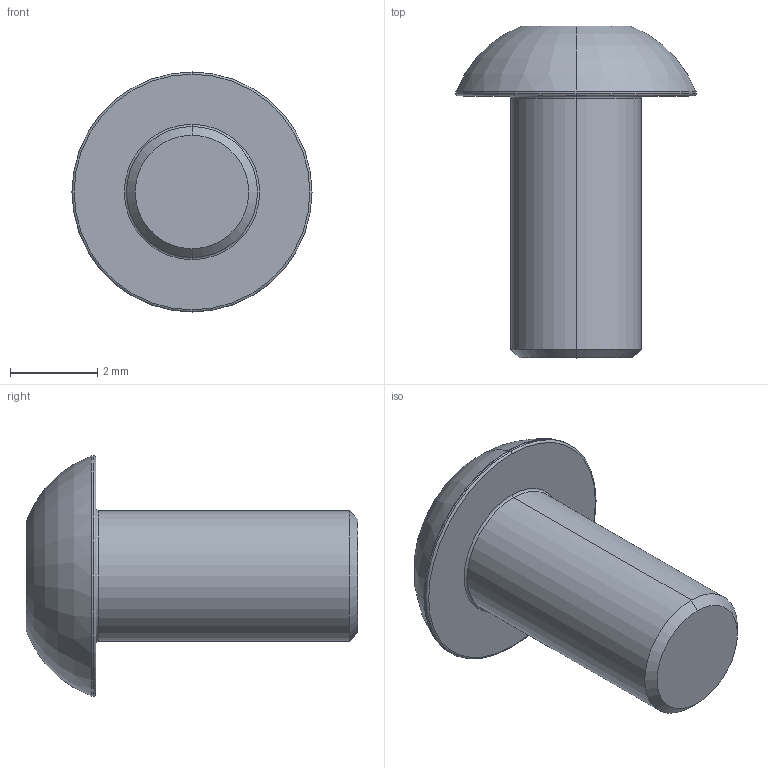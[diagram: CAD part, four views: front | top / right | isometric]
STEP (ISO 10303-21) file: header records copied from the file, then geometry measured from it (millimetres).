
FILE_DESCRIPTION (( 'STEP AP203' ), '1' );
FILE_NAME ('LGDD-304-M3x6.STEP', '2026-08-08T02:20:22', ( '' ), ( '' ), 'SwSTEP 2.0', 'SolidWorks 2020', '' );
FILE_SCHEMA (( 'CONFIG_CONTROL_DESIGN' ));
Length unit declared in the file: millimetre
Products named in the file (1): LGDD-304-M3x6
Bounding box: 5.5 x 7.6 x 5.5 mm (x, y, z)
Volume: 63.8 mm3; surface area: 123.6 mm2
Topology: 1 solids, 1 shells, 31 faces, 59 edges, 32 vertices
Faces by surface type: plane 10, cone 9, torus 8, cylinder 4
Entity records: 876 total; most frequent: CARTESIAN_POINT 166, DIRECTION 149, ORIENTED_EDGE 118, AXIS2_PLACEMENT_3D 65, EDGE_CURVE 59, CIRCLE 33, EDGE_LOOP 33, VERTEX_POINT 32
